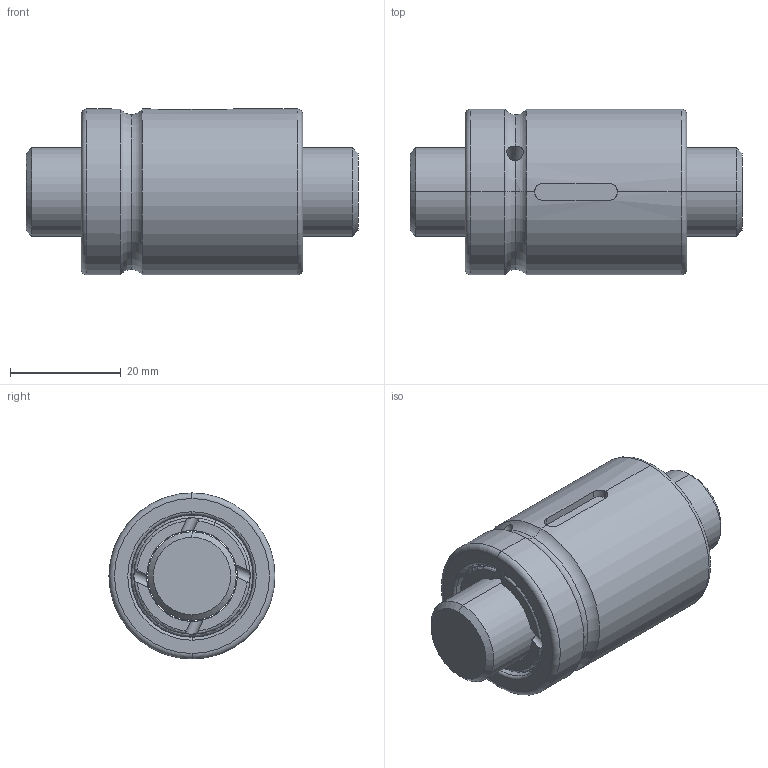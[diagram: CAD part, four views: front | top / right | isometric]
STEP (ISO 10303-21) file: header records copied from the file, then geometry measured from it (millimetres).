
FILE_DESCRIPTION (( 'STEP AP203' ), '1' );
FILE_NAME ('SCIR01604T4-C.STEP', '2020-06-17T07:18:04', ( '' ), ( '' ), 'SwSTEP 2.0', 'SolidWorks 2013', '' );
FILE_SCHEMA (( 'CONFIG_CONTROL_DESIGN' ));
Length unit declared in the file: millimetre
Products named in the file (1): SCIR01604T4-C
Bounding box: 60 x 30 x 30 mm (x, y, z)
Volume: 30351.3 mm3; surface area: 11392.2 mm2
Topology: 2 solids, 2 shells, 92 faces, 220 edges, 135 vertices
Faces by surface type: cylinder 43, torus 26, plane 19, cone 4
Entity records: 3477 total; most frequent: CARTESIAN_POINT 1292, DIRECTION 452, ORIENTED_EDGE 440, EDGE_CURVE 220, AXIS2_PLACEMENT_3D 199, VERTEX_POINT 135, CIRCLE 106, EDGE_LOOP 99
